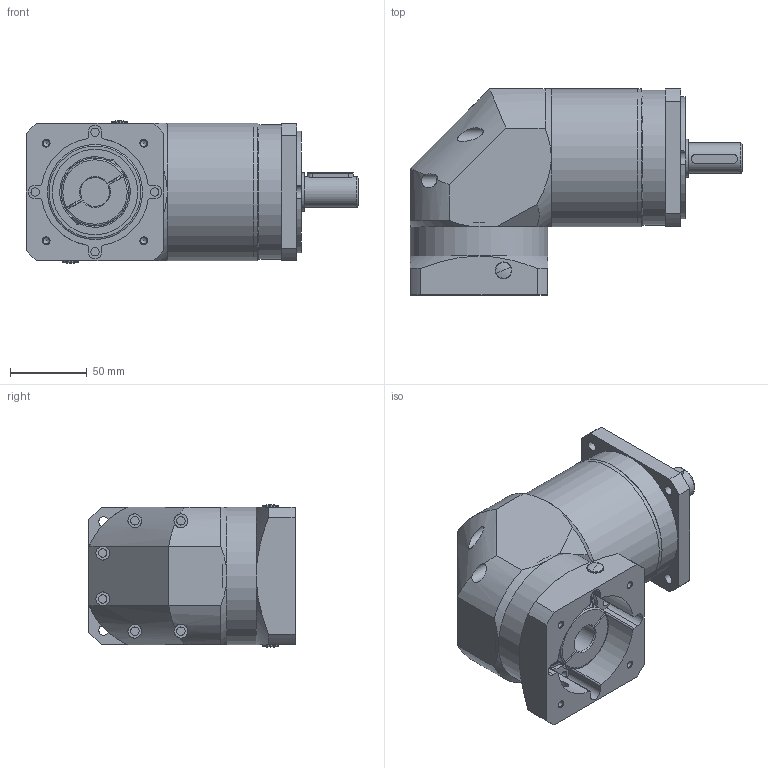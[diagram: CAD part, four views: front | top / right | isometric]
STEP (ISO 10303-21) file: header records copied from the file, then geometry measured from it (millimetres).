
FILE_DESCRIPTION(/* description */ (''),/* implementation_level */ '2;1');
FILE_NAME(/* name */ 'ZPF-090-L2(19-70-90-M5）.stp',/* time_stamp */ '2022-07-05T11:20:39+08:00',/* author */ (''),/* organization */ (''),/* preprocessor_version */ 'ST-DEVELOPER v16',/* originating_system */ 'SIEMENS PLM Software NX 10.0',/* authorisation */ '');
FILE_SCHEMA (('AP203_CONFIGURATION_CONTROLLED_3D_DESIGN_OF_MECHANICAL_PARTS_AND_ASSEMBLIES_MIM_LF { 1 0 10303 403 2 1 2}'));
Length unit declared in the file: millimetre
Products named in the file (1): ZPF-090-L1_19-70-90-M5）_stp
Bounding box: 216.6 x 134.5 x 93 mm (x, y, z)
Volume: 1037151.1 mm3; surface area: 221180.7 mm2
Topology: 23 solids, 23 shells, 911 faces, 2573 edges, 1713 vertices
Faces by surface type: cylinder 289, plane 273, sphere 160, torus 102, cone 53, bspline 34
Full cylindrical faces by diameter (mm): 4.2 x12, 5 x5, 5.5 x14, 6.5 x4, 9 x11, 10 x2, 19 x1, 19.9 x1, 20 x1, 25 x1, 28 x1, 35 x1, 39 x1, 48 x1, 52 x2, 55 x2, 62 x2, 65 x1, 67 x1, 68 x4, 88 x1, 90 x3
Entity records: 36229 total; most frequent: CARTESIAN_POINT 13473, ORIENTED_EDGE 4820, DIRECTION 4562, EDGE_CURVE 2410, AXIS2_PLACEMENT_3D 1997, VERTEX_POINT 1670, EDGE_LOOP 1167, CIRCLE 1112
